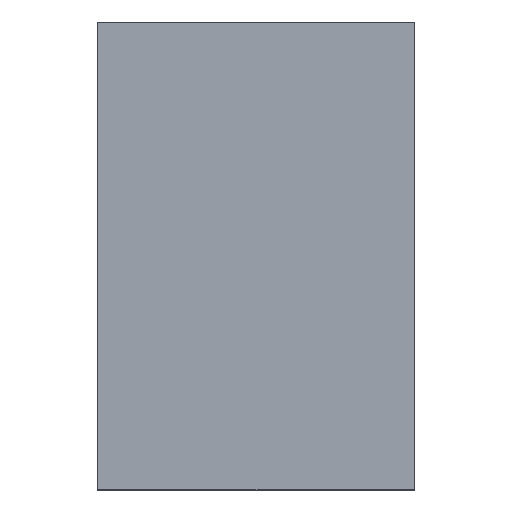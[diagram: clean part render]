
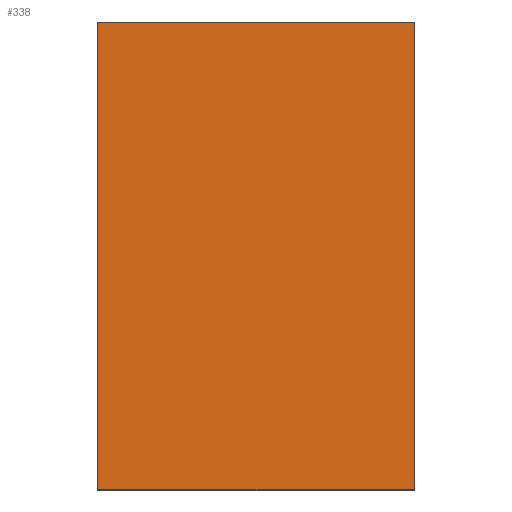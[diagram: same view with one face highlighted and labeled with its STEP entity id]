
A CAD part, top view. The second image highlights one B-rep face of the part: STEP entity #338.
In plain terms, the highlighted planar face has unit normal (0, 0, 1).
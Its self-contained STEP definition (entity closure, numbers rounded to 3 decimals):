
#24 = VERTEX_POINT('',#25);
#25 = CARTESIAN_POINT('',(-28.35,-40.9,12.));
#32 = PLANE('',#33);
#33 = AXIS2_PLACEMENT_3D('',#34,#35,#36);
#34 = CARTESIAN_POINT('',(-28.35,-40.9,10.2));
#35 = DIRECTION('',(1.,0.,0.));
#36 = DIRECTION('',(0.,0.,1.));
#44 = PLANE('',#45);
#45 = AXIS2_PLACEMENT_3D('',#46,#47,#48);
#46 = CARTESIAN_POINT('',(-28.35,-40.9,10.2));
#47 = DIRECTION('',(0.,1.,0.));
#48 = DIRECTION('',(0.,0.,1.));
#85 = VERTEX_POINT('',#86);
#86 = CARTESIAN_POINT('',(-28.35,-25.1,12.));
#100 = PLANE('',#101);
#101 = AXIS2_PLACEMENT_3D('',#102,#103,#104);
#102 = CARTESIAN_POINT('',(-28.35,-25.1,10.2));
#103 = DIRECTION('',(0.,1.,0.));
#104 = DIRECTION('',(0.,0.,1.));
#112 = EDGE_CURVE('',#24,#85,#113,.T.);
#113 = SURFACE_CURVE('',#114,(#118,#125),.PCURVE_S1.);
#114 = LINE('',#115,#116);
#115 = CARTESIAN_POINT('',(-28.35,-40.9,12.));
#116 = VECTOR('',#117,1.);
#117 = DIRECTION('',(0.,1.,0.));
#118 = PCURVE('',#32,#119);
#119 = DEFINITIONAL_REPRESENTATION('',(#120),#124);
#120 = LINE('',#121,#122);
#121 = CARTESIAN_POINT('',(1.8,0.));
#122 = VECTOR('',#123,1.);
#123 = DIRECTION('',(0.,-1.));
#124 = ( GEOMETRIC_REPRESENTATION_CONTEXT(2) 
PARAMETRIC_REPRESENTATION_CONTEXT() REPRESENTATION_CONTEXT('2D SPACE',''
  ) );
#125 = PCURVE('',#126,#131);
#126 = PLANE('',#127);
#127 = AXIS2_PLACEMENT_3D('',#128,#129,#130);
#128 = CARTESIAN_POINT('',(-28.35,-40.9,12.));
#129 = DIRECTION('',(0.,0.,1.));
#130 = DIRECTION('',(1.,0.,0.));
#131 = DEFINITIONAL_REPRESENTATION('',(#132),#136);
#132 = LINE('',#133,#134);
#133 = CARTESIAN_POINT('',(0.,0.));
#134 = VECTOR('',#135,1.);
#135 = DIRECTION('',(0.,1.));
#136 = ( GEOMETRIC_REPRESENTATION_CONTEXT(2) 
PARAMETRIC_REPRESENTATION_CONTEXT() REPRESENTATION_CONTEXT('2D SPACE',''
  ) );
#144 = VERTEX_POINT('',#145);
#145 = CARTESIAN_POINT('',(-17.65,-40.9,12.));
#152 = PLANE('',#153);
#153 = AXIS2_PLACEMENT_3D('',#154,#155,#156);
#154 = CARTESIAN_POINT('',(-17.65,-40.9,10.2));
#155 = DIRECTION('',(1.,0.,0.));
#156 = DIRECTION('',(0.,0.,1.));
#195 = VERTEX_POINT('',#196);
#196 = CARTESIAN_POINT('',(-17.65,-25.1,12.));
#217 = EDGE_CURVE('',#144,#195,#218,.T.);
#218 = SURFACE_CURVE('',#219,(#223,#230),.PCURVE_S1.);
#219 = LINE('',#220,#221);
#220 = CARTESIAN_POINT('',(-17.65,-40.9,12.));
#221 = VECTOR('',#222,1.);
#222 = DIRECTION('',(0.,1.,0.));
#223 = PCURVE('',#152,#224);
#224 = DEFINITIONAL_REPRESENTATION('',(#225),#229);
#225 = LINE('',#226,#227);
#226 = CARTESIAN_POINT('',(1.8,0.));
#227 = VECTOR('',#228,1.);
#228 = DIRECTION('',(0.,-1.));
#229 = ( GEOMETRIC_REPRESENTATION_CONTEXT(2) 
PARAMETRIC_REPRESENTATION_CONTEXT() REPRESENTATION_CONTEXT('2D SPACE',''
  ) );
#230 = PCURVE('',#126,#231);
#231 = DEFINITIONAL_REPRESENTATION('',(#232),#236);
#232 = LINE('',#233,#234);
#233 = CARTESIAN_POINT('',(10.7,0.));
#234 = VECTOR('',#235,1.);
#235 = DIRECTION('',(0.,1.));
#236 = ( GEOMETRIC_REPRESENTATION_CONTEXT(2) 
PARAMETRIC_REPRESENTATION_CONTEXT() REPRESENTATION_CONTEXT('2D SPACE',''
  ) );
#263 = EDGE_CURVE('',#24,#144,#264,.T.);
#264 = SURFACE_CURVE('',#265,(#269,#276),.PCURVE_S1.);
#265 = LINE('',#266,#267);
#266 = CARTESIAN_POINT('',(-28.35,-40.9,12.));
#267 = VECTOR('',#268,1.);
#268 = DIRECTION('',(1.,0.,0.));
#269 = PCURVE('',#44,#270);
#270 = DEFINITIONAL_REPRESENTATION('',(#271),#275);
#271 = LINE('',#272,#273);
#272 = CARTESIAN_POINT('',(1.8,0.));
#273 = VECTOR('',#274,1.);
#274 = DIRECTION('',(0.,1.));
#275 = ( GEOMETRIC_REPRESENTATION_CONTEXT(2) 
PARAMETRIC_REPRESENTATION_CONTEXT() REPRESENTATION_CONTEXT('2D SPACE',''
  ) );
#276 = PCURVE('',#126,#277);
#277 = DEFINITIONAL_REPRESENTATION('',(#278),#282);
#278 = LINE('',#279,#280);
#279 = CARTESIAN_POINT('',(0.,0.));
#280 = VECTOR('',#281,1.);
#281 = DIRECTION('',(1.,0.));
#282 = ( GEOMETRIC_REPRESENTATION_CONTEXT(2) 
PARAMETRIC_REPRESENTATION_CONTEXT() REPRESENTATION_CONTEXT('2D SPACE',''
  ) );
#310 = EDGE_CURVE('',#85,#195,#311,.T.);
#311 = SURFACE_CURVE('',#312,(#316,#323),.PCURVE_S1.);
#312 = LINE('',#313,#314);
#313 = CARTESIAN_POINT('',(-28.35,-25.1,12.));
#314 = VECTOR('',#315,1.);
#315 = DIRECTION('',(1.,0.,0.));
#316 = PCURVE('',#100,#317);
#317 = DEFINITIONAL_REPRESENTATION('',(#318),#322);
#318 = LINE('',#319,#320);
#319 = CARTESIAN_POINT('',(1.8,0.));
#320 = VECTOR('',#321,1.);
#321 = DIRECTION('',(0.,1.));
#322 = ( GEOMETRIC_REPRESENTATION_CONTEXT(2) 
PARAMETRIC_REPRESENTATION_CONTEXT() REPRESENTATION_CONTEXT('2D SPACE',''
  ) );
#323 = PCURVE('',#126,#324);
#324 = DEFINITIONAL_REPRESENTATION('',(#325),#329);
#325 = LINE('',#326,#327);
#326 = CARTESIAN_POINT('',(0.,15.8));
#327 = VECTOR('',#328,1.);
#328 = DIRECTION('',(1.,0.));
#329 = ( GEOMETRIC_REPRESENTATION_CONTEXT(2) 
PARAMETRIC_REPRESENTATION_CONTEXT() REPRESENTATION_CONTEXT('2D SPACE',''
  ) );
#338 = ADVANCED_FACE('',(#339),#126,.T.);
#339 = FACE_BOUND('',#340,.T.);
#340 = EDGE_LOOP('',(#341,#342,#343,#344));
#341 = ORIENTED_EDGE('',*,*,#112,.F.);
#342 = ORIENTED_EDGE('',*,*,#263,.T.);
#343 = ORIENTED_EDGE('',*,*,#217,.T.);
#344 = ORIENTED_EDGE('',*,*,#310,.F.);
